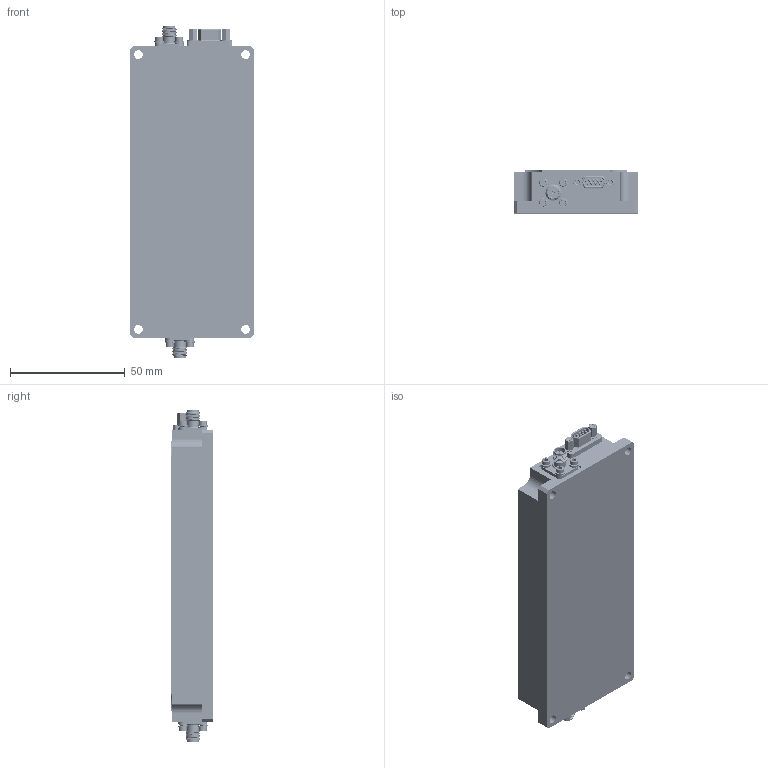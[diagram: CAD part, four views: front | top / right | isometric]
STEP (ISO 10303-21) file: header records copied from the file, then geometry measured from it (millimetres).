
FILE_DESCRIPTION (( 'STEP AP214' ), '1' );
FILE_NAME ('A6094-2000 for customer.STEP', '2023-04-04T14:20:11', ( '' ), ( '' ), 'SwSTEP 2.0', 'SolidWorks 2021', '' );
FILE_SCHEMA (( 'AUTOMOTIVE_DESIGN' ));
Length unit declared in the file: inch
Products named in the file (13): MDM JACK POST LOCK_98449A500; 92146A520 (71051) - WASHER, SPLIT-LOCK, SS, #2, .18 OD X .02 THK_92146A520; 96640A023 (0145196) - SCREW, PFHMS, SS, #2-56 X .250L, BLACK OXIDE_96640A023; 92196A076 (73398) - SCREW, SHCS, SS, #2-56 X .188L_92196A076; A6094-2200; MDM-9P; FS-SCREW STACK UP 2-56 x .188 long; MDM JACK POST_91075A512; HRM(V)-306S - CONNECTOR, SMA, .50 FLANGE, 4 HOLE, .158L DIE, .050 DIA PIN; A6094-2600; A6094-2000 for customer; A6093-2300; 90945A705 (9900326) - WASHER, FLAT, SS, #2, .15 OD X .01 THK_90945A705
Assembly tree (43 placements, depth 3):
  A6094-2000 for customer
    A6094-2200
    A6093-2300
    A6094-2600
    HRM(V)-306S - CONNECTOR, SMA, .50 FLANGE, 4 HOLE, .158L DIE, .050 DIA PIN  x2
    FS-SCREW STACK UP 2-56 x .188 long  x8
      92196A076 (73398) - SCREW, SHCS, SS, #2-56 X .188L_92196A076
      92146A520 (71051) - WASHER, SPLIT-LOCK, SS, #2, .18 OD X .02 THK_92146A520
      90945A705 (9900326) - WASHER, FLAT, SS, #2, .15 OD X .01 THK_90945A705
    96640A023 (0145196) - SCREW, PFHMS, SS, #2-56 X .250L, BLACK OXIDE_96640A023  x22
    MDM JACK POST_91075A512  x2
    MDM JACK POST LOCK_98449A500  x2
    MDM-9P
Bounding box: 53.98 x 18.68 x 144.58 mm (x, y, z)
Volume: 54166.4 mm3; surface area: 50803.6 mm2
Topology: 56 solids, 56 shells, 5093 faces, 13740 edges, 8933 vertices
Faces by surface type: plane 1843, cylinder 1577, bspline 975, cone 667, torus 31
Entity records: 155938 total; most frequent: CARTESIAN_POINT 71131, ORIENTED_EDGE 15998, DIRECTION 11475, EDGE_CURVE 7999, VERTEX_POINT 5276, VECTOR 4789, LINE 4789, EDGE_LOOP 3387
